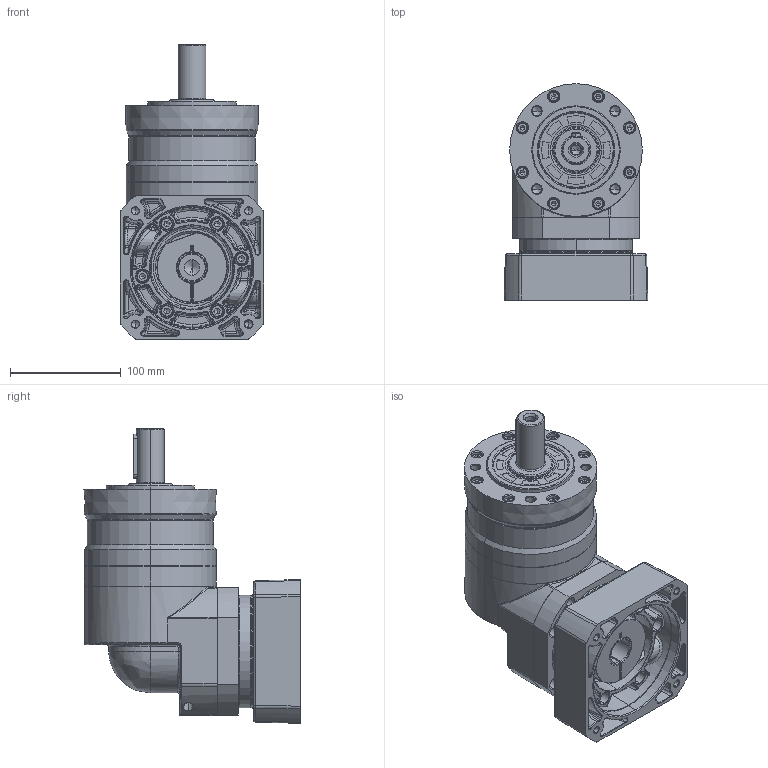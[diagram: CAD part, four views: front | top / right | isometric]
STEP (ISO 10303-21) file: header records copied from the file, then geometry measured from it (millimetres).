
FILE_DESCRIPTION (( 'STEP AP214' ), '1' );
FILE_NAME ('FER120-L1-S2-P1 24-110-145-M8-64.STEP', '2025-02-19T02:26:20', ( '微软用户' ), ( '微软中国' ), 'SwSTEP 2.0', 'SolidWorks 2021', '' );
FILE_SCHEMA (( 'AUTOMOTIVE_DESIGN' ));
Length unit declared in the file: millimetre
Products named in the file (4): EVT110D-L1-10-110-145-M8-64; FER120-L1-S2-P1 24-110-145-M8-64; 11-EVT110F眻褒眊极_stp_stp.stp; FER120D-L1-24-110-145-M8-64
Assembly tree (9 placements, depth 2):
  FER120-L1-S2-P1 24-110-145-M8-64
    FER120D-L1-24-110-145-M8-64
    11-EVT110F眻褒眊极_stp_stp.stp
    EVT110D-L1-10-110-145-M8-64  x7
Bounding box: 130 x 195.5 x 266.5 mm (x, y, z)
Volume: 484008.8 mm3; surface area: 403663.8 mm2
Topology: 1 solids, 54 shells, 2066 faces, 4909 edges, 2964 vertices
Faces by surface type: bspline 609, plane 559, cylinder 496, cone 359, torus 43
Entity records: 81638 total; most frequent: CARTESIAN_POINT 42357, ORIENTED_EDGE 8679, DIRECTION 7210, EDGE_CURVE 4402, AXIS2_PLACEMENT_3D 2951, VERTEX_POINT 2712, EDGE_LOOP 2101, ADVANCED_FACE 1898
